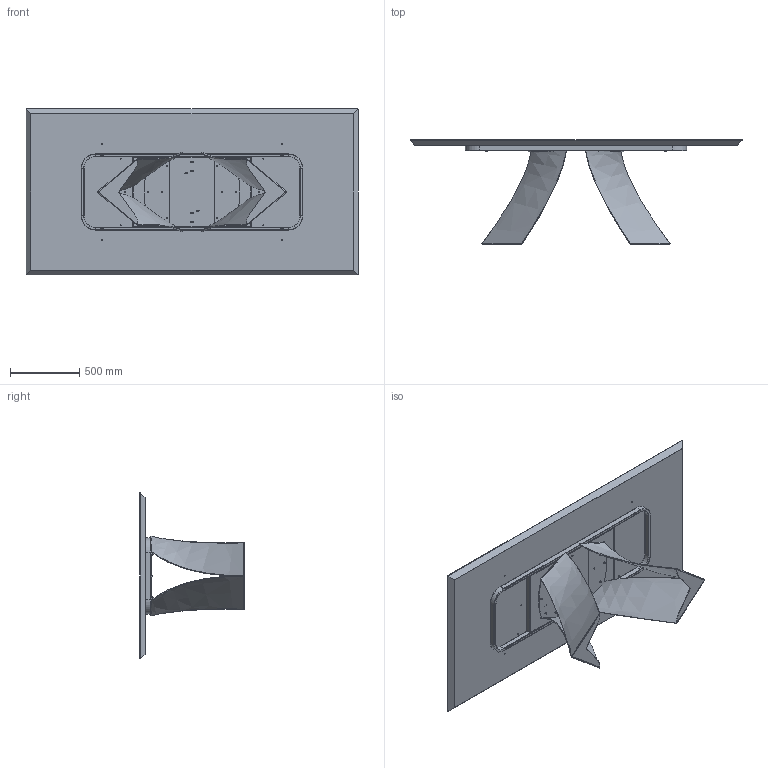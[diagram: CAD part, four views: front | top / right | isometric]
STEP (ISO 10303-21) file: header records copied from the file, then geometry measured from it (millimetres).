
FILE_DESCRIPTION (( 'STEP AP203' ), '1' );
FILE_NAME ('TW23W.STEP', '2024-08-07T12:30:52', ( '' ), ( '' ), 'SwSTEP 2.0', 'SolidWorks 2022', '' );
FILE_SCHEMA (( 'CONFIG_CONTROL_DESIGN' ));
Length unit declared in the file: millimetre
Products named in the file (9): TTAV01_02-01-VASSOIO IRRIGIDIMENTO TELAIO UNIVERSALE; TWS000000BAS-00-TWIST BASE GREZZA; TW23W; M8xXXmm_M8x55mm; rondella M8_8X16; TUBOLARE TELAIO TEMP TWIST_Default<A macchina>; W2XCMXX-00-Piani Rettangolari in legno_2400 x 1200; TEALIO TEMP PER MANUALE; M8xXXmm_M8x20mm
Assembly tree (38 placements, depth 3):
  TW23W
    W2XCMXX-00-Piani Rettangolari in legno_2400 x 1200
    TEALIO TEMP PER MANUALE
      TUBOLARE TELAIO TEMP TWIST_Default<A macchina>
      TTAV01_02-01-VASSOIO IRRIGIDIMENTO TELAIO UNIVERSALE
    TWS000000BAS-00-TWIST BASE GREZZA  x2
    M8xXXmm_M8x55mm  x4
    rondella M8_8X16  x16
    M8xXXmm_M8x20mm  x12
Bounding box: 2400 x 753.37 x 1200 mm (x, y, z)
Volume: 115455207.9 mm3; surface area: 10294992.4 mm2
Topology: 52 solids, 52 shells, 1292 faces, 3032 edges, 1813 vertices
Faces by surface type: plane 472, cylinder 324, torus 224, cone 206, bspline 66
Entity records: 24920 total; most frequent: CARTESIAN_POINT 9420, DIRECTION 2920, ORIENTED_EDGE 2806, EDGE_CURVE 1403, AXIS2_PLACEMENT_3D 1089, VERTEX_POINT 902, LINE 742, VECTOR 742
